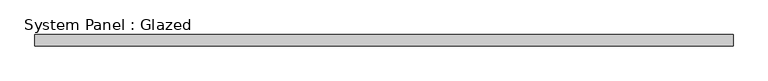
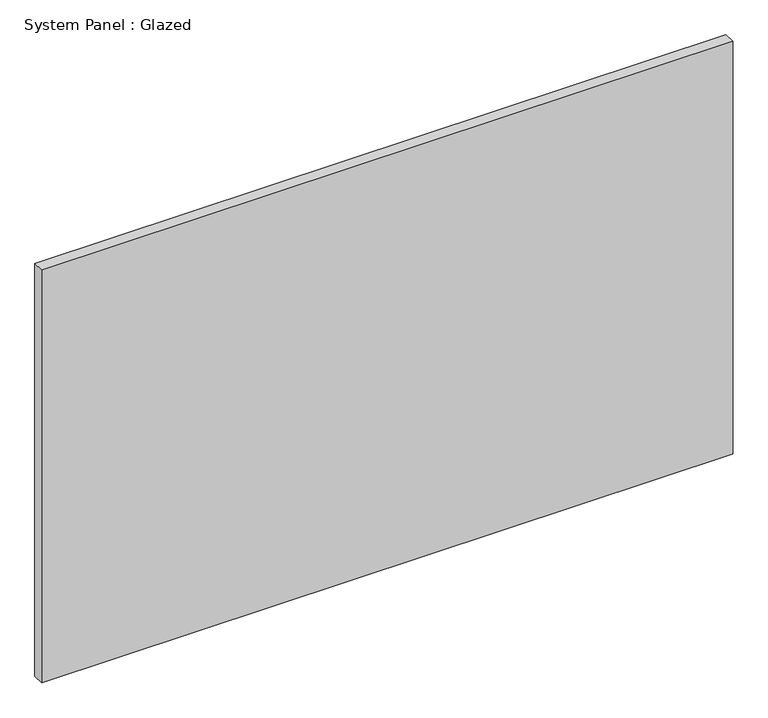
"""IFC4 building model written with IfcOpenShell, lengths in millimetres: plate geometry, System Panel : Glazed."""

import ifcopenshell
import ifcopenshell.guid

model = None  # the IFC model being written
_history = None  # IfcOwnerHistory: only IFC2X3 demands one
_inside = {}  # id of a spatial element -> (the spatial element, [elements in it])
_under = {}  # id of a project, library or spatial element -> (it, [spatial elements below it])
_declared = {}  # id of a project -> (the project, [libraries it declares])
_typed = {}  # id of a type object -> (the type object, [elements of that type])
_made_of = {}  # id of a material, layer set ... -> (it, [elements and type objects made of it])


def new_model(schema):
    """Start an empty IFC model of exactly this schema.

    Asked for "IFC4X3", IfcOpenShell would pick the latest addendum, in which some entities
    have other attributes; the version numbers below select the first issue.
    IFC2X3 requires an IfcOwnerHistory on every rooted entity: one is made here for all.
    """
    global model, _history
    if schema == "IFC4X3":
        model = ifcopenshell.file(schema_version=(4, 3, 0, 0))
    else:
        model = ifcopenshell.file(schema=schema)
    _inside.clear()
    _under.clear()
    _declared.clear()
    _typed.clear()
    _made_of.clear()
    _history = None
    if model.schema == "IFC2X3":
        org = make("IfcOrganization", Name="unknown")
        user = make(
            "IfcPersonAndOrganization",
            ThePerson=make("IfcPerson", FamilyName="unknown"),
            TheOrganization=org,
        )
        app = make(
            "IfcApplication",
            ApplicationDeveloper=org,
            Version="unknown",
            ApplicationFullName="unknown",
            ApplicationIdentifier="unknown",
        )
        _history = make(
            "IfcOwnerHistory",
            OwningUser=user,
            OwningApplication=app,
            ChangeAction="ADDED",
            CreationDate=0,
        )
    return model


def make(cls, **values):
    """One entity of the class cls with the attributes given. An attribute that is None is left unset."""
    return model.create_entity(
        cls, **{name: value for name, value in values.items() if value is not None}
    )


def rooted(cls, **values):
    """An entity with a GlobalId (a new one), such as an element, a storey or a relation."""
    return make(cls, GlobalId=ifcopenshell.guid.new(), OwnerHistory=_history, **values)


def si_unit(unit_type, name, prefix=None):
    """IfcSIUnit, for example si_unit("LENGTHUNIT", "METRE", prefix="MILLI")."""
    return make("IfcSIUnit", UnitType=unit_type, Prefix=prefix, Name=name)


def assignment(units):
    """IfcUnitAssignment: the units of a project."""
    return None if units is None else make("IfcUnitAssignment", Units=units)


def point(xyz):
    """IfcCartesianPoint."""
    return None if xyz is None else make("IfcCartesianPoint", Coordinates=xyz)


def direction(xyz):
    """IfcDirection."""
    return None if xyz is None else make("IfcDirection", DirectionRatios=xyz)


def frame(location, z_axis=None, x_axis=None):
    """IfcAxis2Placement3D, a coordinate frame: its origin and axes. An axis left out is left unset."""
    return make(
        "IfcAxis2Placement3D",
        Location=point(location),
        Axis=direction(z_axis),
        RefDirection=direction(x_axis),
    )


def origin():
    """The frame at (0, 0, 0) with its axes left unset."""
    return frame((0.0, 0.0, 0.0))


def origin_with_axes():
    """The frame at (0, 0, 0) with the z axis (0, 0, 1) and the x axis (1, 0, 0) written out."""
    return frame((0.0, 0.0, 0.0), z_axis=(0.0, 0.0, 1.0), x_axis=(1.0, 0.0, 0.0))


def place(relative_to, where):
    """IfcLocalPlacement: puts the frame where relative to a parent placement (None: the world)."""
    return make(
        "IfcLocalPlacement", PlacementRelTo=relative_to, RelativePlacement=where
    )


def context(
    kind, dimensions, precision=None, world=None, true_north=None, identifier=None
):
    """IfcGeometricRepresentationContext, for example the 3D "Model" context."""
    return make(
        "IfcGeometricRepresentationContext",
        ContextIdentifier=identifier,
        ContextType=kind,
        CoordinateSpaceDimension=dimensions,
        Precision=precision,
        WorldCoordinateSystem=world,
        TrueNorth=true_north,
    )


def project(units=None, contexts=None):
    """IfcProject with its units and contexts."""
    return rooted(
        "IfcProject",
        Name="project",
        RepresentationContexts=contexts,
        UnitsInContext=assignment(units),
    )


def spatial(cls, under=None, at=None, **own):
    """A site, building, storey or space (cls), placed at a placement, below another one or the project."""
    s = rooted(cls, ObjectPlacement=at, **own)
    if under is not None:
        _under.setdefault(under.id(), (under, []))[1].append(s)
    return s


def polyline(points):
    """IfcPolyline through the points."""
    return make("IfcPolyline", Points=[point(p) for p in points])


def outline(outer, holes=None, kind="AREA"):
    """IfcArbitraryClosedProfileDef: a profile drawn as a closed curve; with holes, ...WithVoids."""
    if holes is None:
        return make("IfcArbitraryClosedProfileDef", ProfileType=kind, OuterCurve=outer)
    return make(
        "IfcArbitraryProfileDefWithVoids",
        ProfileType=kind,
        OuterCurve=outer,
        InnerCurves=holes,
    )


def extrude(swept, where, along, depth):
    """IfcExtrudedAreaSolid: the profile swept, set in the frame where, extruded along a direction by depth."""
    return make(
        "IfcExtrudedAreaSolid",
        SweptArea=swept,
        Position=where,
        ExtrudedDirection=direction(along),
        Depth=depth,
    )


def shape(context_of_items, identifier, shape_type, items):
    """IfcShapeRepresentation: the items that make up one representation, for example the "Body"."""
    return make(
        "IfcShapeRepresentation",
        ContextOfItems=context_of_items,
        RepresentationIdentifier=identifier,
        RepresentationType=shape_type,
        Items=items,
    )


def source(mapping_origin, context_of_items, identifier, shape_type, items):
    """IfcRepresentationMap: a shape defined once, which mapped items show again and again."""
    return make(
        "IfcRepresentationMap",
        MappingOrigin=mapping_origin,
        MappedRepresentation=shape(context_of_items, identifier, shape_type, items),
    )


def transform(
    local_origin,
    x_axis=None,
    y_axis=None,
    z_axis=None,
    scale=None,
    scale2=None,
    scale3=None,
    uniform=True,
):
    """IfcCartesianTransformationOperator3D, or its non-uniform kind. x_axis, y_axis, z_axis: its Axis1, 2, 3."""
    if uniform:
        return make(
            "IfcCartesianTransformationOperator3D",
            Axis1=direction(x_axis),
            Axis2=direction(y_axis),
            LocalOrigin=point(local_origin),
            Scale=scale,
            Axis3=direction(z_axis),
        )
    return make(
        "IfcCartesianTransformationOperator3DnonUniform",
        Axis1=direction(x_axis),
        Axis2=direction(y_axis),
        LocalOrigin=point(local_origin),
        Scale=scale,
        Axis3=direction(z_axis),
        Scale2=scale2,
        Scale3=scale3,
    )


def mapped(mapping_source, mapping_target):
    """IfcMappedItem: shows the shape of a source again, moved by a transform."""
    return make(
        "IfcMappedItem", MappingSource=mapping_source, MappingTarget=mapping_target
    )


def made_of(thing, what):
    """Note that an element or type object is made of a material, layer set ...; save() writes the relation."""
    if what is not None:
        _made_of.setdefault(what.id(), (what, []))[1].append(thing)
    return thing


def element(
    cls,
    number,
    at=None,
    inside=None,
    cuts=None,
    type_object=None,
    material=None,
    context=None,
    identifier="Body",
    shape_type=None,
    held_by="IfcProductDefinitionShape",
    body=None,
    shapes=None,
    **own,
):
    """One element of the class cls, such as IfcWall. Its Tag is "e" and its number.

    at: its placement. inside: the storey or other place that contains it. cuts: it is an
    opening in that element (IfcRelVoidsElement). A single representation is given by context,
    identifier, shape_type and body (its items); several are given by shapes. held_by: the class
    of the entity that holds the representations. save() writes the other relations.
    """
    e = rooted(cls, Tag="e%d" % number, ObjectPlacement=at, **own)
    if body is not None:
        shapes = [shape(context, identifier, shape_type, body)]
    if shapes is not None:
        e.Representation = make(held_by, Representations=shapes)
    if inside is not None:
        _inside.setdefault(inside.id(), (inside, []))[1].append(e)
    if cuts is not None:
        rooted(
            "IfcRelVoidsElement", RelatingBuildingElement=cuts, RelatedOpeningElement=e
        )
    if type_object is not None:
        _typed.setdefault(type_object.id(), (type_object, []))[1].append(e)
    return made_of(e, material)


def aggregate(whole, parts):
    """IfcRelAggregates: a whole, such as a stair, and the parts it consists of."""
    return rooted("IfcRelAggregates", RelatingObject=whole, RelatedObjects=parts)


def save(model, path):
    """Write the relations noted so far, then the file.

    IfcRelAggregates (storeys below a building ...), IfcRelContainedInSpatialStructure (elements
    in a storey), IfcRelDefinesByType, IfcRelAssociatesMaterial and IfcRelDeclares: one each for
    every whole, place, type object, material and project.
    """
    for whole, parts in _under.values():
        aggregate(whole, parts)
    for where, things in _inside.values():
        rooted(
            "IfcRelContainedInSpatialStructure",
            RelatedElements=things,
            RelatingStructure=where,
        )
    for kind, things in _typed.values():
        rooted("IfcRelDefinesByType", RelatedObjects=things, RelatingType=kind)
    for what, things in _made_of.values():
        rooted("IfcRelAssociatesMaterial", RelatedObjects=things, RelatingMaterial=what)
    for by, libraries in _declared.values():
        rooted("IfcRelDeclares", RelatingContext=by, RelatedDefinitions=libraries)
    model.write(path)


def system_panel_glazed_5d21a3e7(model_context):
    return source(origin(), model_context, "Body", "SweptSolid", [
        extrude(outline(polyline([(755.0, -12.5), (-755.0, -12.5), (-755.0, 12.5), (755.0, 12.5), (755.0, -12.5)])), origin_with_axes(), (0.0, 0.0, 1.0), 952.5),
    ])


if __name__ == "__main__":
    model = new_model("IFC4")
    model_context = context("Model", 3, world=origin())
    ifc_project = project(units=[si_unit("LENGTHUNIT", "METRE", prefix="MILLI")], contexts=[model_context])
    site = spatial("IfcSite", under=ifc_project)
    building = spatial("IfcBuilding", under=site)
    placement = place(None, origin())
    system_panel_glazed_shape = system_panel_glazed_5d21a3e7(model_context)
    element("IfcPlate", 1, ObjectType="System Panel : Glazed", at=placement, inside=building, context=model_context, shape_type="MappedRepresentation", body=[
        mapped(system_panel_glazed_shape, transform((0.0, 0.0, 0.0), x_axis=(1.0, 0.0, 0.0), y_axis=(0.0, 1.0, 0.0), z_axis=(0.0, 0.0, 1.0))),
    ])
    save(model, "model.ifc")
